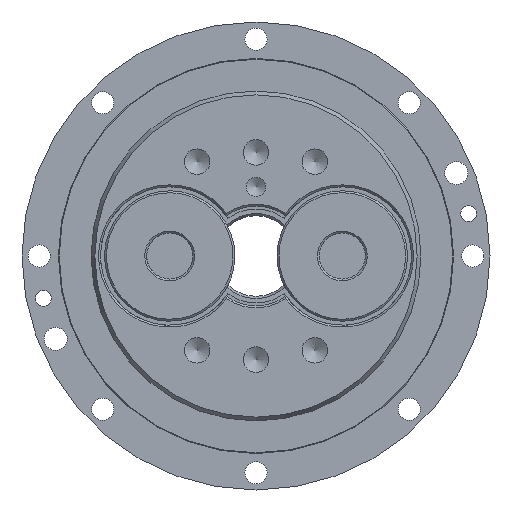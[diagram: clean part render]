
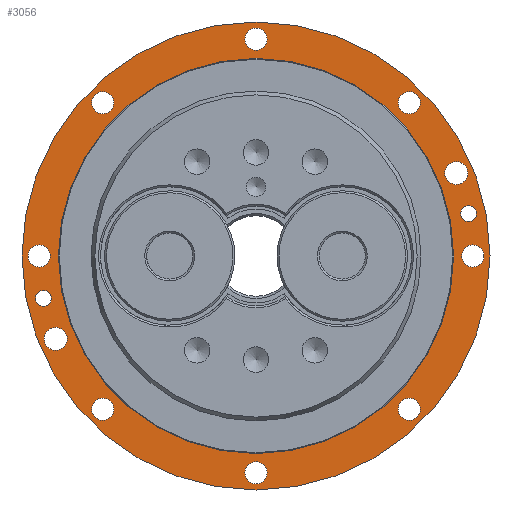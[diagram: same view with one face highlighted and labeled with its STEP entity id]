
A CAD part, left-side view. The second image highlights one B-rep face of the part: STEP entity #3056.
In plain terms, the highlighted planar face has unit normal (-1, 0, 0).
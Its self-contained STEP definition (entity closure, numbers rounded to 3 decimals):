
#2351=CARTESIAN_POINT('',(24.,-52.199,24.622));
#2352=VERTEX_POINT('',#2351);
#2353=CARTESIAN_POINT('',(24.,-52.199,21.622));
#2354=DIRECTION('',(1.0,0.0,0.0));
#2355=DIRECTION('',(0.0,0.0,-1.0));
#2356=AXIS2_PLACEMENT_3D('',#2353,#2354,#2355);
#2357=CIRCLE('',#2356,3.);
#2358=EDGE_CURVE('',#2352,#2352,#2357,.T.);
#2400=CARTESIAN_POINT('',(24.,52.199,-18.622));
#2401=VERTEX_POINT('',#2400);
#2402=CARTESIAN_POINT('',(24.,52.199,-21.622));
#2403=DIRECTION('',(1.0,0.0,0.0));
#2404=DIRECTION('',(0.0,0.0,-1.0));
#2405=AXIS2_PLACEMENT_3D('',#2402,#2403,#2404);
#2406=CIRCLE('',#2405,3.);
#2407=EDGE_CURVE('',#2401,#2401,#2406,.T.);
#2449=CARTESIAN_POINT('',(24.,-55.414,13.09));
#2450=VERTEX_POINT('',#2449);
#2451=CARTESIAN_POINT('',(24.,-55.414,11.023));
#2452=DIRECTION('',(1.0,0.0,0.0));
#2453=DIRECTION('',(0.0,0.0,-1.0));
#2454=AXIS2_PLACEMENT_3D('',#2451,#2452,#2453);
#2455=CIRCLE('',#2454,2.067);
#2456=EDGE_CURVE('',#2450,#2450,#2455,.T.);
#2498=CARTESIAN_POINT('',(24.,55.414,-8.956));
#2499=VERTEX_POINT('',#2498);
#2500=CARTESIAN_POINT('',(24.,55.414,-11.023));
#2501=DIRECTION('',(1.0,0.0,0.0));
#2502=DIRECTION('',(0.0,0.0,-1.0));
#2503=AXIS2_PLACEMENT_3D('',#2500,#2501,#2502);
#2504=CIRCLE('',#2503,2.067);
#2505=EDGE_CURVE('',#2499,#2499,#2504,.T.);
#2547=CARTESIAN_POINT('',(24.,39.952,-37.052));
#2548=VERTEX_POINT('',#2547);
#2549=CARTESIAN_POINT('',(24.,39.952,-39.952));
#2550=DIRECTION('',(1.0,0.0,0.0));
#2551=DIRECTION('',(0.0,0.0,-1.0));
#2552=AXIS2_PLACEMENT_3D('',#2549,#2550,#2551);
#2553=CIRCLE('',#2552,2.9);
#2554=EDGE_CURVE('',#2548,#2548,#2553,.T.);
#2596=CARTESIAN_POINT('',(24.,-39.952,42.852));
#2597=VERTEX_POINT('',#2596);
#2598=CARTESIAN_POINT('',(24.,-39.952,39.952));
#2599=DIRECTION('',(1.0,0.0,0.0));
#2600=DIRECTION('',(0.0,0.0,-1.0));
#2601=AXIS2_PLACEMENT_3D('',#2598,#2599,#2600);
#2602=CIRCLE('',#2601,2.9);
#2603=EDGE_CURVE('',#2597,#2597,#2602,.T.);
#2645=CARTESIAN_POINT('',(24.,0.,-53.6));
#2646=VERTEX_POINT('',#2645);
#2647=CARTESIAN_POINT('',(24.,0.0,-56.5));
#2648=DIRECTION('',(1.0,0.0,0.0));
#2649=DIRECTION('',(0.0,0.0,-1.0));
#2650=AXIS2_PLACEMENT_3D('',#2647,#2648,#2649);
#2651=CIRCLE('',#2650,2.9);
#2652=EDGE_CURVE('',#2646,#2646,#2651,.T.);
#2694=CARTESIAN_POINT('',(24.,0.,59.4));
#2695=VERTEX_POINT('',#2694);
#2696=CARTESIAN_POINT('',(24.,0.0,56.5));
#2697=DIRECTION('',(1.0,0.0,0.0));
#2698=DIRECTION('',(0.0,0.0,-1.0));
#2699=AXIS2_PLACEMENT_3D('',#2696,#2697,#2698);
#2700=CIRCLE('',#2699,2.9);
#2701=EDGE_CURVE('',#2695,#2695,#2700,.T.);
#2743=CARTESIAN_POINT('',(24.,56.5,2.9));
#2744=VERTEX_POINT('',#2743);
#2745=CARTESIAN_POINT('',(24.,56.5,0.0));
#2746=DIRECTION('',(1.0,0.0,0.0));
#2747=DIRECTION('',(0.0,0.0,-1.0));
#2748=AXIS2_PLACEMENT_3D('',#2745,#2746,#2747);
#2749=CIRCLE('',#2748,2.9);
#2750=EDGE_CURVE('',#2744,#2744,#2749,.T.);
#2792=CARTESIAN_POINT('',(24.,-56.5,2.9));
#2793=VERTEX_POINT('',#2792);
#2794=CARTESIAN_POINT('',(24.,-56.5,0.0));
#2795=DIRECTION('',(1.0,0.0,0.0));
#2796=DIRECTION('',(0.0,0.0,-1.0));
#2797=AXIS2_PLACEMENT_3D('',#2794,#2795,#2796);
#2798=CIRCLE('',#2797,2.9);
#2799=EDGE_CURVE('',#2793,#2793,#2798,.T.);
#2841=CARTESIAN_POINT('',(24.,39.952,42.852));
#2842=VERTEX_POINT('',#2841);
#2843=CARTESIAN_POINT('',(24.,39.952,39.952));
#2844=DIRECTION('',(1.0,0.0,0.0));
#2845=DIRECTION('',(0.0,0.0,-1.0));
#2846=AXIS2_PLACEMENT_3D('',#2843,#2844,#2845);
#2847=CIRCLE('',#2846,2.9);
#2848=EDGE_CURVE('',#2842,#2842,#2847,.T.);
#2890=CARTESIAN_POINT('',(24.,-39.952,-37.052));
#2891=VERTEX_POINT('',#2890);
#2892=CARTESIAN_POINT('',(24.,-39.952,-39.952));
#2893=DIRECTION('',(1.0,0.0,0.0));
#2894=DIRECTION('',(0.0,0.0,-1.0));
#2895=AXIS2_PLACEMENT_3D('',#2892,#2893,#2894);
#2896=CIRCLE('',#2895,2.9);
#2897=EDGE_CURVE('',#2891,#2891,#2896,.T.);
#2986=CARTESIAN_POINT('',(24.0,51.5,0.0));
#2987=VERTEX_POINT('',#2986);
#2988=CARTESIAN_POINT('',(24.0,0.0,0.0));
#2989=DIRECTION('',(1.0,0.0,0.0));
#2990=DIRECTION('',(0.0,1.0,0.0));
#2991=AXIS2_PLACEMENT_3D('',#2988,#2989,#2990);
#2992=CIRCLE('',#2991,51.5);
#2993=EDGE_CURVE('',#2987,#2987,#2992,.T.);
#3001=CARTESIAN_POINT('',(24.0,56.25,0.0));
#3002=DIRECTION('',(-1.0,0.0,0.0));
#3003=DIRECTION('',(0.0,0.0,1.0));
#3004=AXIS2_PLACEMENT_3D('',#3001,#3002,#3003);
#3005=PLANE('',#3004);
#3006=CARTESIAN_POINT('',(24.0,61.,0.0));
#3007=VERTEX_POINT('',#3006);
#3008=CARTESIAN_POINT('',(24.0,0.0,0.0));
#3009=DIRECTION('',(1.0,0.0,0.0));
#3010=DIRECTION('',(0.0,1.0,0.0));
#3011=AXIS2_PLACEMENT_3D('',#3008,#3009,#3010);
#3012=CIRCLE('',#3011,61.);
#3013=EDGE_CURVE('',#3007,#3007,#3012,.T.);
#3014=ORIENTED_EDGE('',*,*,#3013,.F.);
#3015=EDGE_LOOP('',(#3014));
#3016=FACE_OUTER_BOUND('',#3015,.T.);
#3017=ORIENTED_EDGE('',*,*,#2358,.T.);
#3018=EDGE_LOOP('',(#3017));
#3019=FACE_BOUND('',#3018,.T.);
#3020=ORIENTED_EDGE('',*,*,#2407,.T.);
#3021=EDGE_LOOP('',(#3020));
#3022=FACE_BOUND('',#3021,.T.);
#3023=ORIENTED_EDGE('',*,*,#2456,.T.);
#3024=EDGE_LOOP('',(#3023));
#3025=FACE_BOUND('',#3024,.T.);
#3026=ORIENTED_EDGE('',*,*,#2505,.T.);
#3027=EDGE_LOOP('',(#3026));
#3028=FACE_BOUND('',#3027,.T.);
#3029=ORIENTED_EDGE('',*,*,#2554,.T.);
#3030=EDGE_LOOP('',(#3029));
#3031=FACE_BOUND('',#3030,.T.);
#3032=ORIENTED_EDGE('',*,*,#2603,.T.);
#3033=EDGE_LOOP('',(#3032));
#3034=FACE_BOUND('',#3033,.T.);
#3035=ORIENTED_EDGE('',*,*,#2652,.T.);
#3036=EDGE_LOOP('',(#3035));
#3037=FACE_BOUND('',#3036,.T.);
#3038=ORIENTED_EDGE('',*,*,#2701,.T.);
#3039=EDGE_LOOP('',(#3038));
#3040=FACE_BOUND('',#3039,.T.);
#3041=ORIENTED_EDGE('',*,*,#2750,.T.);
#3042=EDGE_LOOP('',(#3041));
#3043=FACE_BOUND('',#3042,.T.);
#3044=ORIENTED_EDGE('',*,*,#2799,.T.);
#3045=EDGE_LOOP('',(#3044));
#3046=FACE_BOUND('',#3045,.T.);
#3047=ORIENTED_EDGE('',*,*,#2848,.T.);
#3048=EDGE_LOOP('',(#3047));
#3049=FACE_BOUND('',#3048,.T.);
#3050=ORIENTED_EDGE('',*,*,#2897,.T.);
#3051=EDGE_LOOP('',(#3050));
#3052=FACE_BOUND('',#3051,.T.);
#3053=ORIENTED_EDGE('',*,*,#2993,.T.);
#3054=EDGE_LOOP('',(#3053));
#3055=FACE_BOUND('',#3054,.T.);
#3056=ADVANCED_FACE('',(#3016,#3019,#3022,#3025,#3028,#3031,#3034,#3037,#3040,#3043,#3046,#3049,#3052,#3055),#3005,.T.);
